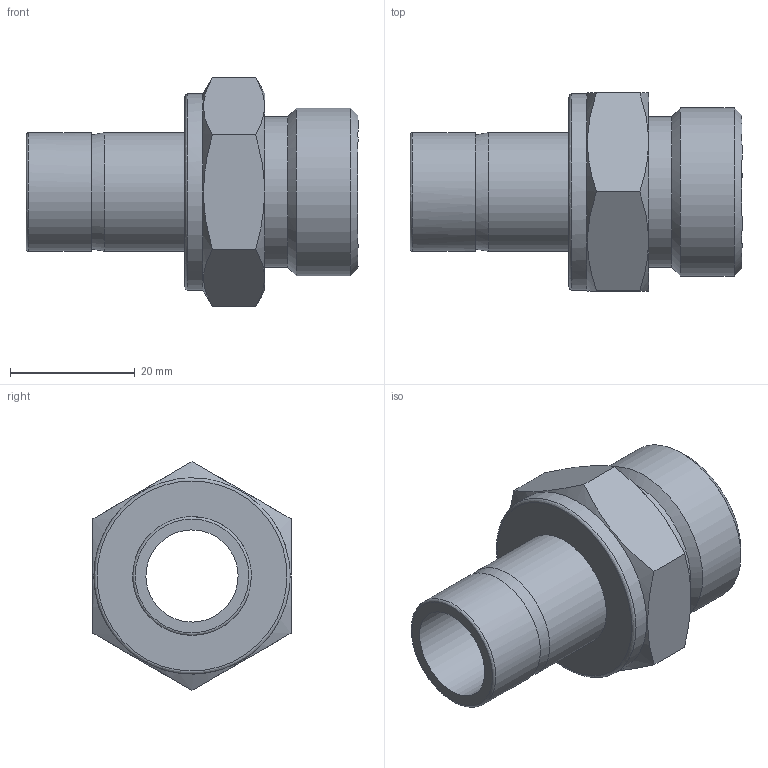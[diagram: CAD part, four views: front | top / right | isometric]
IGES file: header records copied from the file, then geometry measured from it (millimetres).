
Global section: file name: SSMA-12-12U; native system: Autodesk Inventor 2016; preprocessor: unknown; author: DESIGNPC2; date: 20160125.083510; units: millimetre
Bounding box: 53.3 x 31.8 x 36.72 mm (x, y, z)
Volume: 16941.7 mm3; surface area: 8018.6 mm2
Topology: 1 solids, 1 shells, 29 faces, 77 edges, 53 vertices
Faces by surface type: bspline 29
